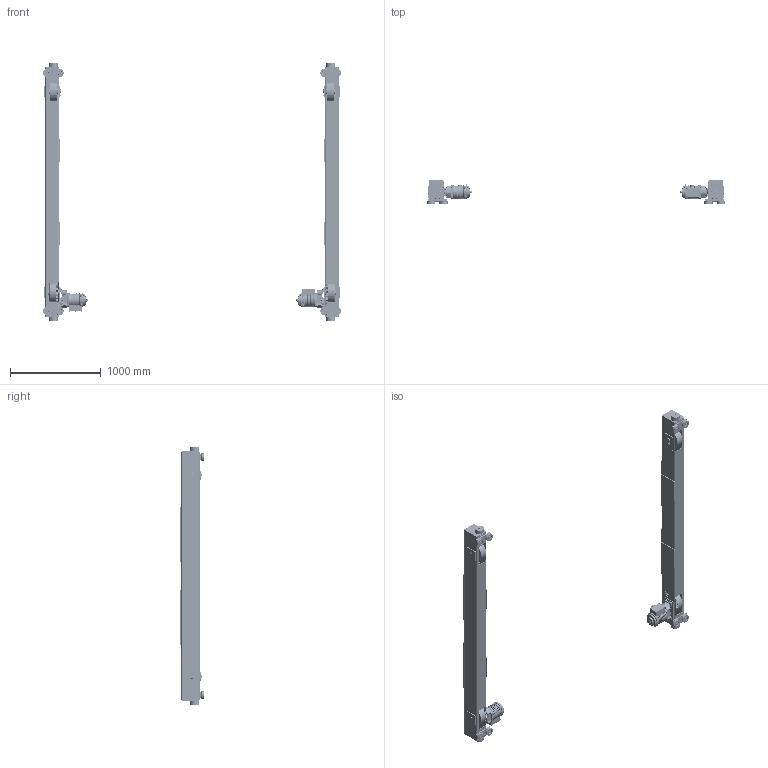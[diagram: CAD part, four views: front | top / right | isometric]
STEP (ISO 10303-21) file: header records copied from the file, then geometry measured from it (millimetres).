
FILE_DESCRIPTION (( 'STEP AP214' ), '1' );
FILE_NAME ('MTMS-3-0560.STEP', '2026-08-14T14:03:53', ( '' ), ( '' ), 'SwSTEP 2.0', 'SolidWorks 2026', '' );
FILE_SCHEMA (( 'AUTOMOTIVE_DESIGN' ));
Length unit declared in the file: inch
Products named in the file (71): 6244510; 9012711_9012711; 9012709_Rectangular section spring washer BS 4464 - 16 (Type B); N6QO450E9102; 6244508; 6244503; 9091256_B18.3.1M - 6 x 1.0 x 50 Hex SHCS -- 24CHX; 6251001; T800-600-004_107.4375; 9012514_9012514; G1JE025S9603; 9047125_B27.7M - 3AM1-23; 6240817X_6240817A; 9047252_9047252; 9000605; N6QO310E9108_N6QO3101108 DOMESTIC; G1JE025S9610; 6251101_25#; 6232305; 6240818; G1JE040S9701; 9091272_9091272; G1JE040S9303; 6240805X_6240805A; 6240820; 6250901; 62587; 9093327_9093327; 6244509; 6244517; 6251201_25#; 9012707_9012707; 9798526_9798526; 9091273_9091273; 9093101_9093101; 6244513; G1JE025S9604; 6232404; G1JM040S_NORMAL; N6QO450E91311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
Assembly tree (255 placements, depth 4):
  MTMS-3-0560
    6251101_25#
      6250901
        T800-600-004_107.4375
        6240820
        6240818
        6240818
        6244510
        6244510
        6244510
      6244509  x2
      6244508  x2
      6240817X_6240817A  x2
        6240805X_6240805A
        6232305
      6244519
      6244501
      6244502
      6244503
    6251201_25#
      6251001
        T800-600-004_107.4375
        6240820
        6240818
        6240818
        6244510
        6244510
        6244510
      6244509  x2
      6244508  x2
      6240817X_6240817A  x2
        6240805X_6240805A
        6232305
      6244519
      6244501
      6244502
      6244503
    6244517  x4
    6244513  x4
    9012711_9012711  x20
    9093327_9093327  x8
    N6QO4501101  x2
      N6QO450E91013
      N6QO450E91311
      9000709
      9091272_9091272
      9012711_9012711
    N6QO4501102  x2
      N6QO450E9102
      9000709
    N6QO3101108_N6QO3101108  x8
      N6QO310E9108_N6QO3101108 DOMESTIC
      9047252_9047252
      9000605
    6232404  x8
    9047125_B27.7M - 3AM1-23  x8
    N6QO375207  x4
    9012514_9012514  x4
    9093101_9093101  x4
    G1JM040S_NORMAL
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Bounding box: 3275.62 x 261.94 x 2844.96 mm (x, y, z)
Volume: 50897675.5 mm3; surface area: 12469003.8 mm2
Topology: 278 solids, 342 shells, 16778 faces, 43080 edges, 27696 vertices
Faces by surface type: plane 9042, cylinder 3686, bspline 2074, torus 898, cone 866, sphere 212
Entity records: 189240 total; most frequent: CARTESIAN_POINT 79014, ORIENTED_EDGE 22210, DIRECTION 19959, EDGE_CURVE 11109, AXIS2_PLACEMENT_3D 7443, VERTEX_POINT 7099, VECTOR 5073, LINE 5073
